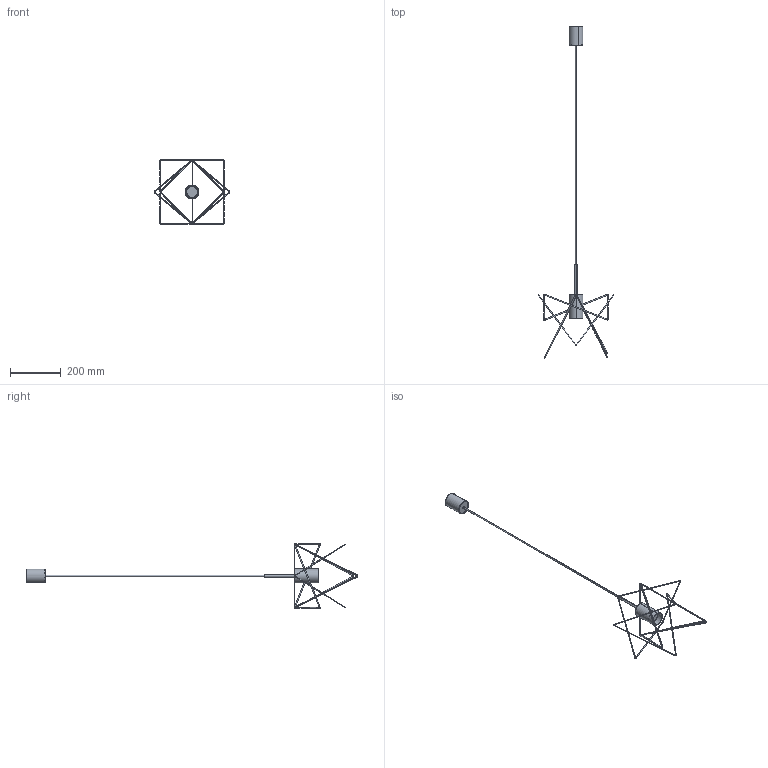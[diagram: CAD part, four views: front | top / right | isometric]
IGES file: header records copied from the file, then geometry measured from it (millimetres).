
Start section: SolidWorks IGES file using analytic representation for surfaces
Global section: file name: Z:\Modele 3D_WWW\_KOLEKCJE_WWW\GSTAR\GSTAR-8854\GSTAR-8854.IGS; native system: SolidWorks 2020; preprocessor: SolidWorks 2020; author: gabriela.tworek; date: 210315.141308; units: millimetre
Bounding box: 298.22 x 1305.8 x 253.34 mm (x, y, z)
Surface area: 147624.7 mm2 (no closed solid volume)
Topology: 0 solids, 0 shells, 143 faces, 2343 edges, 2343 vertices
Faces by surface type: bspline 91, revolution 52
